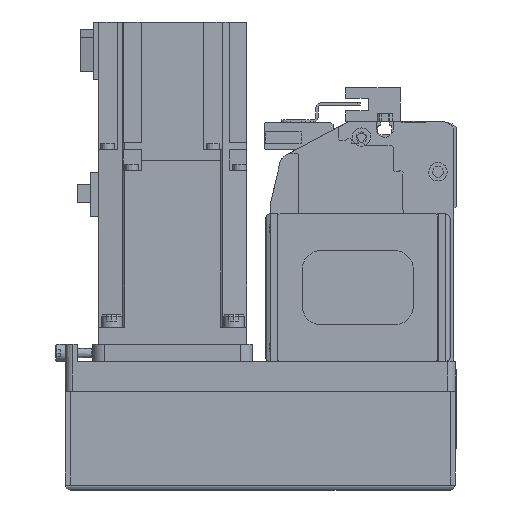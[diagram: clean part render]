
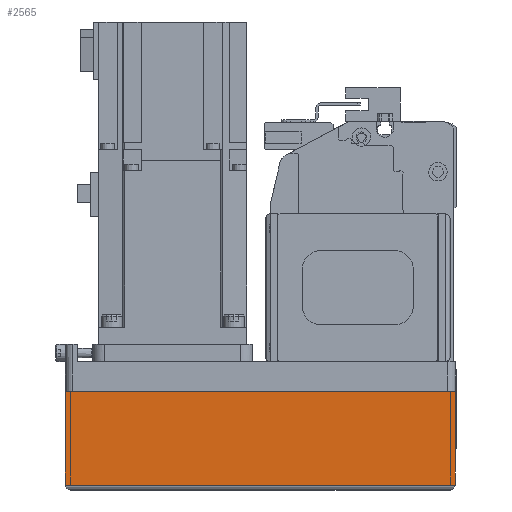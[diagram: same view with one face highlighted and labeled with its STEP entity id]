
A CAD part, left-side view. The second image highlights one B-rep face of the part: STEP entity #2565.
In plain terms, the highlighted planar face has unit normal (-1, 0, 0) as drawn and (0, -1, 0) by its records, which use the part's own axes.
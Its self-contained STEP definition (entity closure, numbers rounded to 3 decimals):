
#2565 = ADVANCED_FACE( '', ( #5768 ), #5769, .T. );
#5768 = FACE_OUTER_BOUND( '', #9571, .T. );
#5769 = PLANE( '', #9572 );
#9571 = EDGE_LOOP( '', ( #16766, #16767, #16768, #16769 ) );
#9572 = AXIS2_PLACEMENT_3D( '', #16770, #16771, #16772 );
#16766 = ORIENTED_EDGE( '', *, *, #23858, .F. );
#16767 = ORIENTED_EDGE( '', *, *, #21673, .F. );
#16768 = ORIENTED_EDGE( '', *, *, #23859, .T. );
#16769 = ORIENTED_EDGE( '', *, *, #23701, .T. );
#16770 = CARTESIAN_POINT( '', ( -158., -39., -12.1 ) );
#16771 = DIRECTION( '', ( 0., -1., 0. ) );
#16772 = DIRECTION( '', ( 0., 0., -1. ) );
#21673 = EDGE_CURVE( '', #25976, #25977, #25978, .T. );
#23701 = EDGE_CURVE( '', #24997, #27985, #29147, .T. );
#23858 = EDGE_CURVE( '', #25977, #27985, #29352, .T. );
#23859 = EDGE_CURVE( '', #25976, #24997, #29353, .T. );
#24997 = VERTEX_POINT( '', #30767 );
#25976 = VERTEX_POINT( '', #32551 );
#25977 = VERTEX_POINT( '', #32552 );
#25978 = LINE( '', #32553, #32554 );
#27985 = VERTEX_POINT( '', #35576 );
#29147 = LINE( '', #37608, #37609 );
#29352 = LINE( '', #37903, #37904 );
#29353 = LINE( '', #37905, #37906 );
#30767 = CARTESIAN_POINT( '', ( -158., -39., -50. ) );
#32551 = CARTESIAN_POINT( '', ( -158., -39., -12.1 ) );
#32552 = CARTESIAN_POINT( '', ( 0., -39., -12.1 ) );
#32553 = CARTESIAN_POINT( '', ( -158., -39., -12.1 ) );
#32554 = VECTOR( '', #40451, 1000. );
#35576 = CARTESIAN_POINT( '', ( 0., -39., -50. ) );
#37608 = CARTESIAN_POINT( '', ( -158., -39., -50. ) );
#37609 = VECTOR( '', #42937, 1000. );
#37903 = CARTESIAN_POINT( '', ( 0., -39., -12.1 ) );
#37904 = VECTOR( '', #43096, 1000. );
#37905 = CARTESIAN_POINT( '', ( -158., -39., -12.1 ) );
#37906 = VECTOR( '', #43097, 1000. );
#40451 = DIRECTION( '', ( 1., 0., 0. ) );
#42937 = DIRECTION( '', ( 1., 0., 0. ) );
#43096 = DIRECTION( '', ( 0., 0., -1. ) );
#43097 = DIRECTION( '', ( 0., 0., -1. ) );
